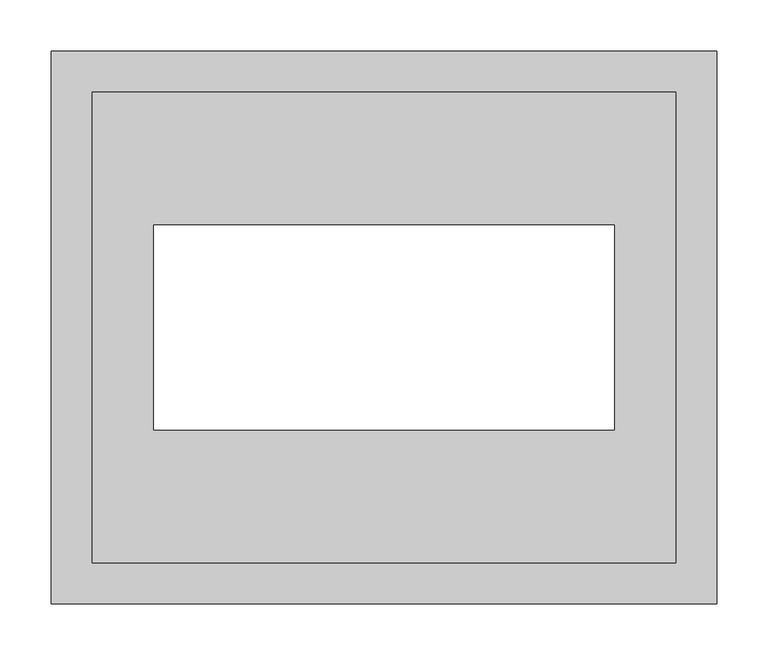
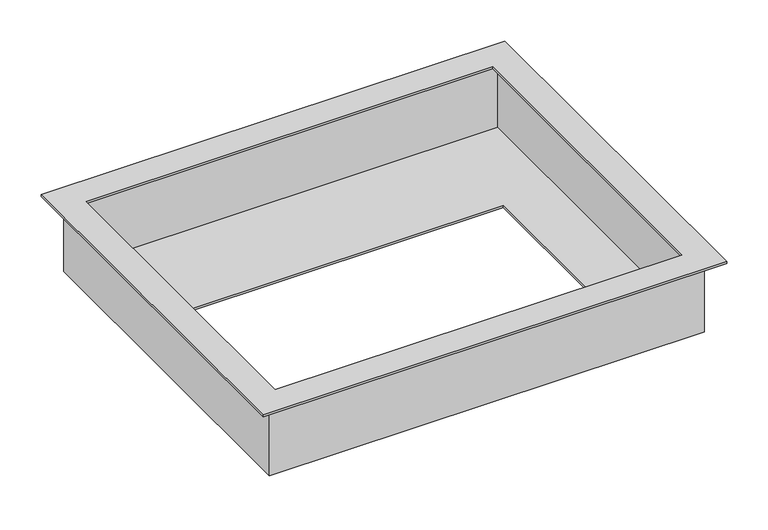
"""IFC4 building model written with IfcOpenShell, lengths in millimetres: light fixture geometry, Zumtobel CR2P MOUNTING FRAME : CR2PL M MOUNTING FRAME."""

from ifc_helpers import new_model, si_unit, origin, place, context, project, spatial, faceted_brep, source, transform, mapped, element, save


def light_fixture_589004d7(model_context):
    return source(origin(), model_context, "Body", "Brep", [
        faceted_brep([(74.5000048, -270.0, 2.9939766), (74.5000048, -270.0, 0.0), (724.5000048, -270.0, 0.0), (724.5000048, -270.0, 2.9939766), (97.5000048, -247.0, 0.0), (701.5000048, -247.0, 0.0), (701.5000048, -247.0, -103.0), (97.5000048, -247.0, -103.0), (94.5000048, -250.0, -106.0060234), (704.5000048, -250.0, -106.0060234), (704.5000048, -250.0, -103.0), (704.5000048, -250.0, 0.0), (94.5000048, -250.0, 0.0), (94.5000048, -250.0, -103.0), (724.5000048, 270.0, 0.0), (724.5000048, 270.0, 2.9939766), (701.5000048, 247.0, 0.0), (701.5000048, 247.0, -103.0), (704.5000048, 250.0, -106.0060234), (704.5000048, 250.0, -103.0), (704.5000048, 250.0, 0.0), (74.5000048, 270.0, 0.0), (74.5000048, 270.0, 2.9939766), (97.5000048, 247.0, 0.0), (97.5000048, 247.0, -103.0), (94.5000048, 250.0, -106.0060234), (94.5000048, 250.0, -103.0), (94.5000048, 250.0, 0.0), (114.5000048, -230.0, 2.9939766), (114.5000048, 230.0, 2.9939766), (684.5000048, 230.0, 2.9939766), (684.5000048, -230.0, 2.9939766), (624.5000048, 100.0, -106.0060234), (174.5000048, 100.0, -106.0060234), (174.5000048, -100.0, -106.0060234), (624.5000048, -100.0, -106.0060234), (684.5000048, -230.0, 0.0), (114.5000048, -230.0, 0.0), (684.5000048, 230.0, 0.0), (114.5000048, 230.0, 0.0), (624.5000048, 100.0, -103.0), (624.5000048, -100.0, -103.0), (174.5000048, -100.0, -103.0), (174.5000048, 100.0, -103.0)], [[[0, 1, 2, 3]], [[4, 5, 6, 7]], [[8, 9, 10, 11, 12, 13]], [[3, 2, 14, 15]], [[5, 16, 17, 6]], [[9, 18, 19, 20, 11, 10]], [[15, 14, 21, 22]], [[16, 23, 24, 17]], [[18, 25, 26, 27, 20, 19]], [[1, 0, 22, 21]], [[0, 3, 15, 22], [28, 29, 30, 31]], [[23, 4, 7, 24]], [[9, 8, 25, 18], [32, 33, 34, 35]], [[25, 8, 13, 12, 27, 26]], [[2, 1, 21, 14], [12, 11, 20, 27]], [[28, 31, 36, 37]], [[31, 30, 38, 36]], [[30, 29, 39, 38]], [[29, 28, 37, 39]], [[5, 4, 23, 16], [37, 36, 38, 39]], [[7, 6, 17, 24], [40, 41, 42, 43]], [[41, 40, 32, 35]], [[42, 41, 35, 34]], [[43, 42, 34, 33]], [[40, 43, 33, 32]]]),
    ])


if __name__ == "__main__":
    model = new_model("IFC4")
    model_context = context("Model", 3, world=origin())
    ifc_project = project(units=[si_unit("LENGTHUNIT", "METRE", prefix="MILLI")], contexts=[model_context])
    site = spatial("IfcSite", under=ifc_project)
    building = spatial("IfcBuilding", under=site)
    placement = place(None, origin())
    light_fixture_shape = light_fixture_589004d7(model_context)
    element("IfcLightFixture", 1, ObjectType="Zumtobel CR2P MOUNTING FRAME : CR2PL M MOUNTING FRAME", at=placement, inside=building, context=model_context, shape_type="MappedRepresentation", body=[
        mapped(light_fixture_shape, transform((0.0, 0.0, 0.0), x_axis=(1.0, 0.0, 0.0), y_axis=(0.0, 1.0, 0.0), z_axis=(0.0, 0.0, 1.0))),
    ])
    save(model, "model.ifc")
